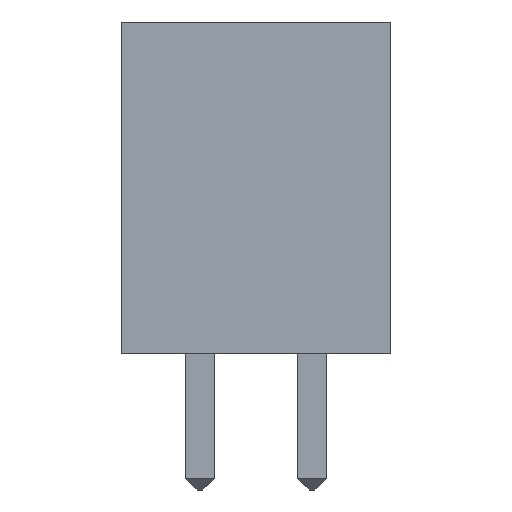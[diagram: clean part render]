
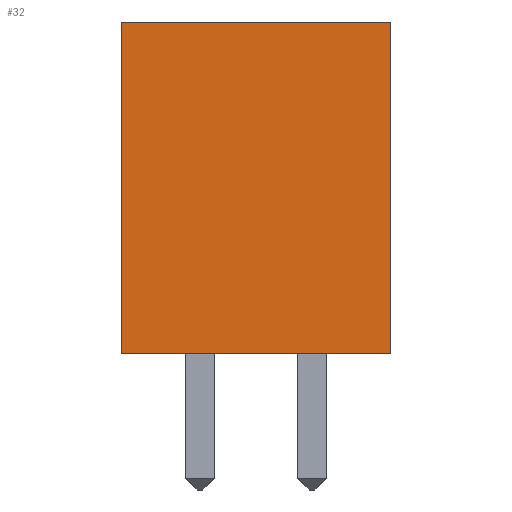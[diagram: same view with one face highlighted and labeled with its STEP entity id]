
A CAD part, left-side view. The second image highlights one B-rep face of the part: STEP entity #32.
In plain terms, the highlighted planar face has unit normal (-1, 0, 0).
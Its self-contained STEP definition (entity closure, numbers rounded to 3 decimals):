
#32 = ADVANCED_FACE('',(#33),#47,.F.);
#33 = FACE_BOUND('',#34,.F.);
#34 = EDGE_LOOP('',(#35,#70,#98,#126));
#35 = ORIENTED_EDGE('',*,*,#36,.F.);
#36 = EDGE_CURVE('',#37,#39,#41,.T.);
#37 = VERTEX_POINT('',#38);
#38 = CARTESIAN_POINT('',(-44.17,-1.78,0.));
#39 = VERTEX_POINT('',#40);
#40 = CARTESIAN_POINT('',(-44.17,-1.78,7.5));
#41 = SURFACE_CURVE('',#42,(#46,#58),.PCURVE_S1.);
#42 = LINE('',#43,#44);
#43 = CARTESIAN_POINT('',(-44.17,-1.78,0.));
#44 = VECTOR('',#45,1.);
#45 = DIRECTION('',(0.,0.,1.));
#46 = PCURVE('',#47,#52);
#47 = PLANE('',#48);
#48 = AXIS2_PLACEMENT_3D('',#49,#50,#51);
#49 = CARTESIAN_POINT('',(-44.17,-1.78,0.));
#50 = DIRECTION('',(1.,0.,0.));
#51 = DIRECTION('',(0.,0.,1.));
#52 = DEFINITIONAL_REPRESENTATION('',(#53),#57);
#53 = LINE('',#54,#55);
#54 = CARTESIAN_POINT('',(0.,0.));
#55 = VECTOR('',#56,1.);
#56 = DIRECTION('',(1.,0.));
#57 = ( GEOMETRIC_REPRESENTATION_CONTEXT(2) 
PARAMETRIC_REPRESENTATION_CONTEXT() REPRESENTATION_CONTEXT('2D SPACE',''
  ) );
#58 = PCURVE('',#59,#64);
#59 = PLANE('',#60);
#60 = AXIS2_PLACEMENT_3D('',#61,#62,#63);
#61 = CARTESIAN_POINT('',(-44.17,-1.78,0.));
#62 = DIRECTION('',(0.,1.,0.));
#63 = DIRECTION('',(0.,0.,1.));
#64 = DEFINITIONAL_REPRESENTATION('',(#65),#69);
#65 = LINE('',#66,#67);
#66 = CARTESIAN_POINT('',(0.,0.));
#67 = VECTOR('',#68,1.);
#68 = DIRECTION('',(1.,0.));
#69 = ( GEOMETRIC_REPRESENTATION_CONTEXT(2) 
PARAMETRIC_REPRESENTATION_CONTEXT() REPRESENTATION_CONTEXT('2D SPACE',''
  ) );
#70 = ORIENTED_EDGE('',*,*,#71,.T.);
#71 = EDGE_CURVE('',#37,#72,#74,.T.);
#72 = VERTEX_POINT('',#73);
#73 = CARTESIAN_POINT('',(-44.17,4.32,0.));
#74 = SURFACE_CURVE('',#75,(#79,#86),.PCURVE_S1.);
#75 = LINE('',#76,#77);
#76 = CARTESIAN_POINT('',(-44.17,-1.78,0.));
#77 = VECTOR('',#78,1.);
#78 = DIRECTION('',(0.,1.,0.));
#79 = PCURVE('',#47,#80);
#80 = DEFINITIONAL_REPRESENTATION('',(#81),#85);
#81 = LINE('',#82,#83);
#82 = CARTESIAN_POINT('',(0.,0.));
#83 = VECTOR('',#84,1.);
#84 = DIRECTION('',(0.,-1.));
#85 = ( GEOMETRIC_REPRESENTATION_CONTEXT(2) 
PARAMETRIC_REPRESENTATION_CONTEXT() REPRESENTATION_CONTEXT('2D SPACE',''
  ) );
#86 = PCURVE('',#87,#92);
#87 = PLANE('',#88);
#88 = AXIS2_PLACEMENT_3D('',#89,#90,#91);
#89 = CARTESIAN_POINT('',(-44.17,-1.78,0.));
#90 = DIRECTION('',(0.,0.,1.));
#91 = DIRECTION('',(1.,0.,0.));
#92 = DEFINITIONAL_REPRESENTATION('',(#93),#97);
#93 = LINE('',#94,#95);
#94 = CARTESIAN_POINT('',(0.,0.));
#95 = VECTOR('',#96,1.);
#96 = DIRECTION('',(0.,1.));
#97 = ( GEOMETRIC_REPRESENTATION_CONTEXT(2) 
PARAMETRIC_REPRESENTATION_CONTEXT() REPRESENTATION_CONTEXT('2D SPACE',''
  ) );
#98 = ORIENTED_EDGE('',*,*,#99,.T.);
#99 = EDGE_CURVE('',#72,#100,#102,.T.);
#100 = VERTEX_POINT('',#101);
#101 = CARTESIAN_POINT('',(-44.17,4.32,7.5));
#102 = SURFACE_CURVE('',#103,(#107,#114),.PCURVE_S1.);
#103 = LINE('',#104,#105);
#104 = CARTESIAN_POINT('',(-44.17,4.32,0.));
#105 = VECTOR('',#106,1.);
#106 = DIRECTION('',(0.,0.,1.));
#107 = PCURVE('',#47,#108);
#108 = DEFINITIONAL_REPRESENTATION('',(#109),#113);
#109 = LINE('',#110,#111);
#110 = CARTESIAN_POINT('',(0.,-6.1));
#111 = VECTOR('',#112,1.);
#112 = DIRECTION('',(1.,0.));
#113 = ( GEOMETRIC_REPRESENTATION_CONTEXT(2) 
PARAMETRIC_REPRESENTATION_CONTEXT() REPRESENTATION_CONTEXT('2D SPACE',''
  ) );
#114 = PCURVE('',#115,#120);
#115 = PLANE('',#116);
#116 = AXIS2_PLACEMENT_3D('',#117,#118,#119);
#117 = CARTESIAN_POINT('',(-44.17,4.32,0.));
#118 = DIRECTION('',(0.,1.,0.));
#119 = DIRECTION('',(0.,0.,1.));
#120 = DEFINITIONAL_REPRESENTATION('',(#121),#125);
#121 = LINE('',#122,#123);
#122 = CARTESIAN_POINT('',(0.,0.));
#123 = VECTOR('',#124,1.);
#124 = DIRECTION('',(1.,0.));
#125 = ( GEOMETRIC_REPRESENTATION_CONTEXT(2) 
PARAMETRIC_REPRESENTATION_CONTEXT() REPRESENTATION_CONTEXT('2D SPACE',''
  ) );
#126 = ORIENTED_EDGE('',*,*,#127,.F.);
#127 = EDGE_CURVE('',#39,#100,#128,.T.);
#128 = SURFACE_CURVE('',#129,(#133,#140),.PCURVE_S1.);
#129 = LINE('',#130,#131);
#130 = CARTESIAN_POINT('',(-44.17,-1.78,7.5));
#131 = VECTOR('',#132,1.);
#132 = DIRECTION('',(0.,1.,0.));
#133 = PCURVE('',#47,#134);
#134 = DEFINITIONAL_REPRESENTATION('',(#135),#139);
#135 = LINE('',#136,#137);
#136 = CARTESIAN_POINT('',(7.5,0.));
#137 = VECTOR('',#138,1.);
#138 = DIRECTION('',(0.,-1.));
#139 = ( GEOMETRIC_REPRESENTATION_CONTEXT(2) 
PARAMETRIC_REPRESENTATION_CONTEXT() REPRESENTATION_CONTEXT('2D SPACE',''
  ) );
#140 = PCURVE('',#141,#146);
#141 = PLANE('',#142);
#142 = AXIS2_PLACEMENT_3D('',#143,#144,#145);
#143 = CARTESIAN_POINT('',(-44.17,-1.78,7.5));
#144 = DIRECTION('',(0.,0.,1.));
#145 = DIRECTION('',(1.,0.,0.));
#146 = DEFINITIONAL_REPRESENTATION('',(#147),#151);
#147 = LINE('',#148,#149);
#148 = CARTESIAN_POINT('',(0.,0.));
#149 = VECTOR('',#150,1.);
#150 = DIRECTION('',(0.,1.));
#151 = ( GEOMETRIC_REPRESENTATION_CONTEXT(2) 
PARAMETRIC_REPRESENTATION_CONTEXT() REPRESENTATION_CONTEXT('2D SPACE',''
  ) );
